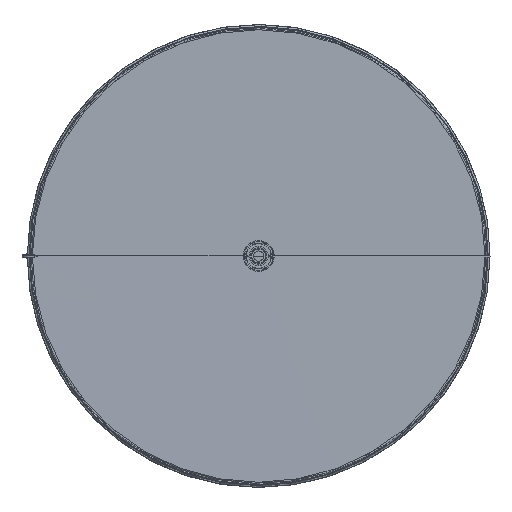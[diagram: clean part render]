
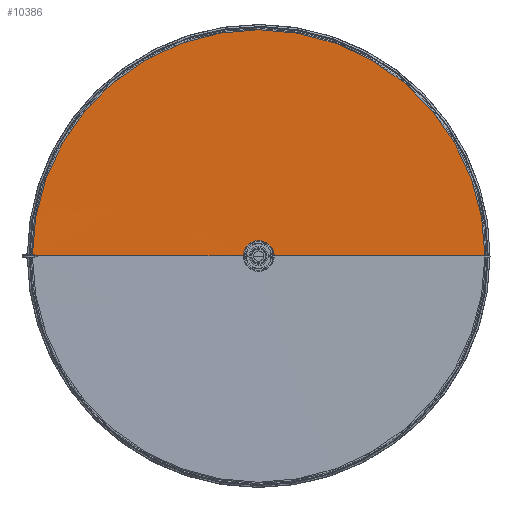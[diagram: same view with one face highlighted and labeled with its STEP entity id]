
A CAD part, top view. The second image highlights one B-rep face of the part: STEP entity #10386.
In plain terms, the highlighted conical face has half-angle 89.874 degrees and reference radius 443.45 mm.
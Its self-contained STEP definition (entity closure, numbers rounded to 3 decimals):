
#147=CONICAL_SURFACE('',#10934,443.45,1.569);
#646=CIRCLE('',#10935,33.5);
#647=CIRCLE('',#10936,489.);
#764=LINE('',#16567,#2279);
#765=LINE('',#16570,#2280);
#2279=VECTOR('',#11738,304.8);
#2280=VECTOR('',#11741,304.8);
#3879=FACE_OUTER_BOUND('',#4368,.T.);
#4368=EDGE_LOOP('',(#8206,#8207,#8208,#8209));
#4978=VERTEX_POINT('',#16563);
#4979=VERTEX_POINT('',#16564);
#4980=VERTEX_POINT('',#16566);
#4981=VERTEX_POINT('',#16568);
#6326=EDGE_CURVE('',#4978,#4979,#646,.T.);
#6327=EDGE_CURVE('',#4980,#4978,#764,.T.);
#6328=EDGE_CURVE('',#4981,#4980,#647,.T.);
#6329=EDGE_CURVE('',#4979,#4981,#765,.T.);
#8206=ORIENTED_EDGE('',*,*,#6326,.F.);
#8207=ORIENTED_EDGE('',*,*,#6327,.F.);
#8208=ORIENTED_EDGE('',*,*,#6328,.F.);
#8209=ORIENTED_EDGE('',*,*,#6329,.F.);
#10386=ADVANCED_FACE('',(#3879),#147,.F.);
#10934=AXIS2_PLACEMENT_3D('',#16562,#11734,#11735);
#10935=AXIS2_PLACEMENT_3D('',#16565,#11736,#11737);
#10936=AXIS2_PLACEMENT_3D('',#16569,#11739,#11740);
#11734=DIRECTION('center_axis',(0.,0.,
1.));
#11735=DIRECTION('ref_axis',(1.,0.,0.));
#11736=DIRECTION('center_axis',(0.,0.,1.));
#11737=DIRECTION('ref_axis',(0.,1.,0.));
#11738=DIRECTION('',(0.,1.,-0.002));
#11739=DIRECTION('center_axis',(0.,0.,
-1.));
#11740=DIRECTION('ref_axis',(-0.588,0.809,0.));
#11741=DIRECTION('',(0.,1.,0.002));
#16562=CARTESIAN_POINT('Origin',(0.,0.,
89.9));
#16563=CARTESIAN_POINT('',(0.,-33.5,89.));
#16564=CARTESIAN_POINT('',(0.,33.5,89.));
#16565=CARTESIAN_POINT('Origin',(0.,0.,
89.));
#16566=CARTESIAN_POINT('',(0.,-489.,90.));
#16567=CARTESIAN_POINT('',(0.,-489.,90.));
#16568=CARTESIAN_POINT('',(0.,489.,90.));
#16569=CARTESIAN_POINT('Origin',(0.,0.,
90.));
#16570=CARTESIAN_POINT('',(0.,33.5,89.));
